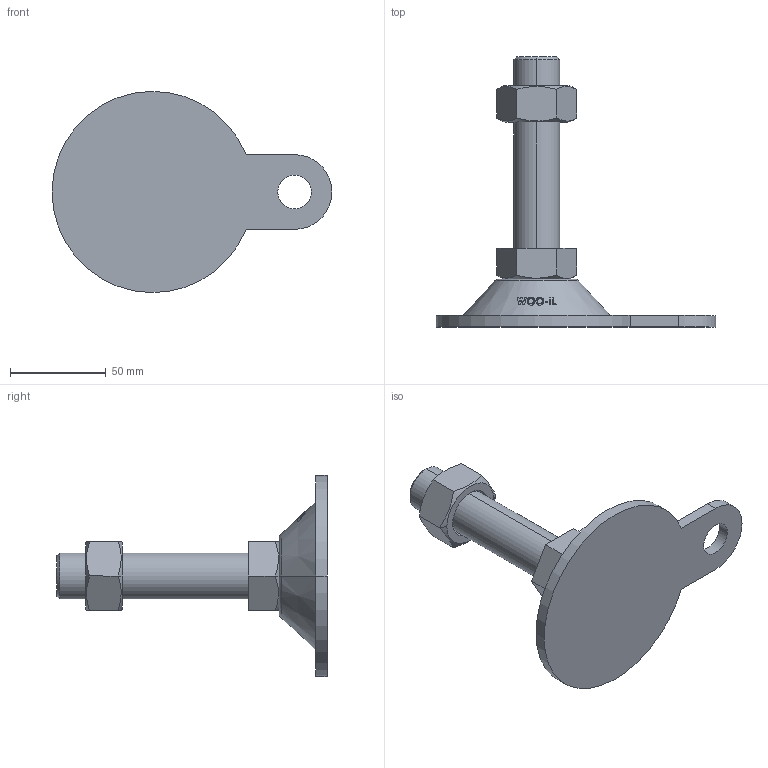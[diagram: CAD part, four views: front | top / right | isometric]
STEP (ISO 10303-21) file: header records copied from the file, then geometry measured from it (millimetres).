
FILE_DESCRIPTION (( 'STEP AP214' ), '1' );
FILE_NAME ('ABL105-M24-100.step', '2021-02-05T04:17:06', ( '' ), ( '' ), 'SwSTEP 2.0', 'SolidWorks 2019', '' );
FILE_SCHEMA (( 'AUTOMOTIVE_DESIGN' ));
Length unit declared in the file: millimetre
Products named in the file (2): ABL105-M24-100
Bounding box: 146 x 141 x 104.98 mm (x, y, z)
Volume: 189347.3 mm3; surface area: 38797.3 mm2
Topology: 2 solids, 2 shells, 128 faces, 325 edges, 212 vertices
Faces by surface type: plane 48, cylinder 38, cone 22, bspline 18, torus 2
Entity records: 5469 total; most frequent: CARTESIAN_POINT 2583, ORIENTED_EDGE 650, DIRECTION 473, EDGE_CURVE 325, VERTEX_POINT 212, AXIS2_PLACEMENT_3D 176, EDGE_LOOP 143, B_SPLINE_CURVE_WITH_KNOTS 140
